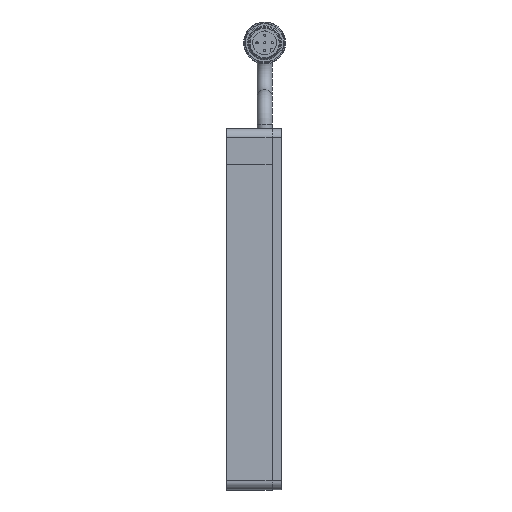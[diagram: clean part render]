
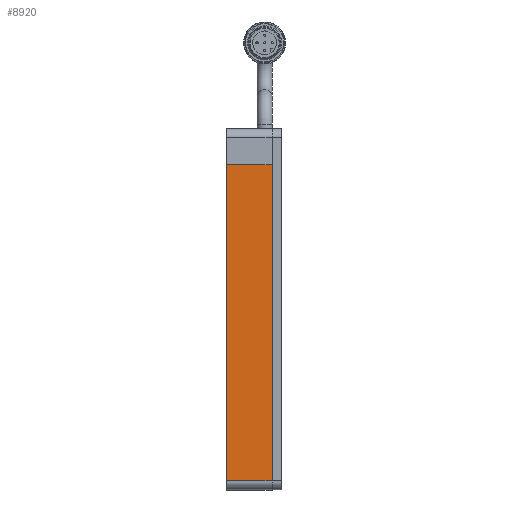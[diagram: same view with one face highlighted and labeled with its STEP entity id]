
A CAD part, left-side view. The second image highlights one B-rep face of the part: STEP entity #8920.
In plain terms, the highlighted planar face has unit normal (-1, 0, 0) as drawn and (0, 0, -1) by its records, which use the part's own axes.
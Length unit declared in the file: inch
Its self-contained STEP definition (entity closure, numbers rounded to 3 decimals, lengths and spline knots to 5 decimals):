
#431 = EDGE_CURVE ( 'NONE', #7290, #1559, #8961, .T. ) ;
#660 = CARTESIAN_POINT ( 'NONE',  ( -2.5, 0.3125, -0.25 ) ) ;
#1559 = VERTEX_POINT ( 'NONE', #7185 ) ;
#1576 = ORIENTED_EDGE ( 'NONE', *, *, #431, .T. ) ;
#1679 = DIRECTION ( 'NONE',  ( 0., 1., 0. ) ) ;
#1829 = DIRECTION ( 'NONE',  ( -1., 0., 0. ) ) ;
#1937 = LINE ( 'NONE', #3603, #11511 ) ;
#2204 = CARTESIAN_POINT ( 'NONE',  ( 2.375, -0.3125, -0.25 ) ) ;
#2248 = EDGE_CURVE ( 'NONE', #3374, #1559, #3046, .T. ) ;
#2482 = PLANE ( 'NONE',  #5119 ) ;
#2904 = VECTOR ( 'NONE', #10780, 39.37008 ) ;
#3046 = LINE ( 'NONE', #10260, #11201 ) ;
#3374 = VERTEX_POINT ( 'NONE', #5185 ) ;
#3603 = CARTESIAN_POINT ( 'NONE',  ( -2.5, -0.3125, -0.25 ) ) ;
#4436 = CARTESIAN_POINT ( 'NONE',  ( 2.375, 0.3125, -0.25 ) ) ;
#4937 = VECTOR ( 'NONE', #1679, 39.37008 ) ;
#5119 = AXIS2_PLACEMENT_3D ( 'NONE', #660, #9525, #7833 ) ;
#5185 = CARTESIAN_POINT ( 'NONE',  ( 2.375, 0.3125, -0.25 ) ) ;
#5282 = EDGE_CURVE ( 'NONE', #8588, #7290, #1937, .T. ) ;
#5768 = DIRECTION ( 'NONE',  ( -1., 0., 0. ) ) ;
#6340 = CARTESIAN_POINT ( 'NONE',  ( -2., -0.3125, -0.25 ) ) ;
#7185 = CARTESIAN_POINT ( 'NONE',  ( -2., 0.3125, -0.25 ) ) ;
#7290 = VERTEX_POINT ( 'NONE', #10287 ) ;
#7640 = ORIENTED_EDGE ( 'NONE', *, *, #5282, .T. ) ;
#7833 = DIRECTION ( 'NONE',  ( 1., 0., 0. ) ) ;
#8588 = VERTEX_POINT ( 'NONE', #2204 ) ;
#8920 = ADVANCED_FACE ( 'NONE', ( #11410 ), #2482, .F. ) ;
#8961 = LINE ( 'NONE', #6340, #4937 ) ;
#9141 = EDGE_LOOP ( 'NONE', ( #9527, #9903, #7640, #1576 ) ) ;
#9525 = DIRECTION ( 'NONE',  ( 0., 0., 1. ) ) ;
#9527 = ORIENTED_EDGE ( 'NONE', *, *, #2248, .F. ) ;
#9777 = LINE ( 'NONE', #4436, #2904 ) ;
#9903 = ORIENTED_EDGE ( 'NONE', *, *, #10802, .T. ) ;
#10260 = CARTESIAN_POINT ( 'NONE',  ( -2.5, 0.3125, -0.25 ) ) ;
#10287 = CARTESIAN_POINT ( 'NONE',  ( -2., -0.3125, -0.25 ) ) ;
#10780 = DIRECTION ( 'NONE',  ( 0., -1., 0. ) ) ;
#10802 = EDGE_CURVE ( 'NONE', #3374, #8588, #9777, .T. ) ;
#11201 = VECTOR ( 'NONE', #5768, 39.37008 ) ;
#11410 = FACE_OUTER_BOUND ( 'NONE', #9141, .T. ) ;
#11511 = VECTOR ( 'NONE', #1829, 39.37008 ) ;
